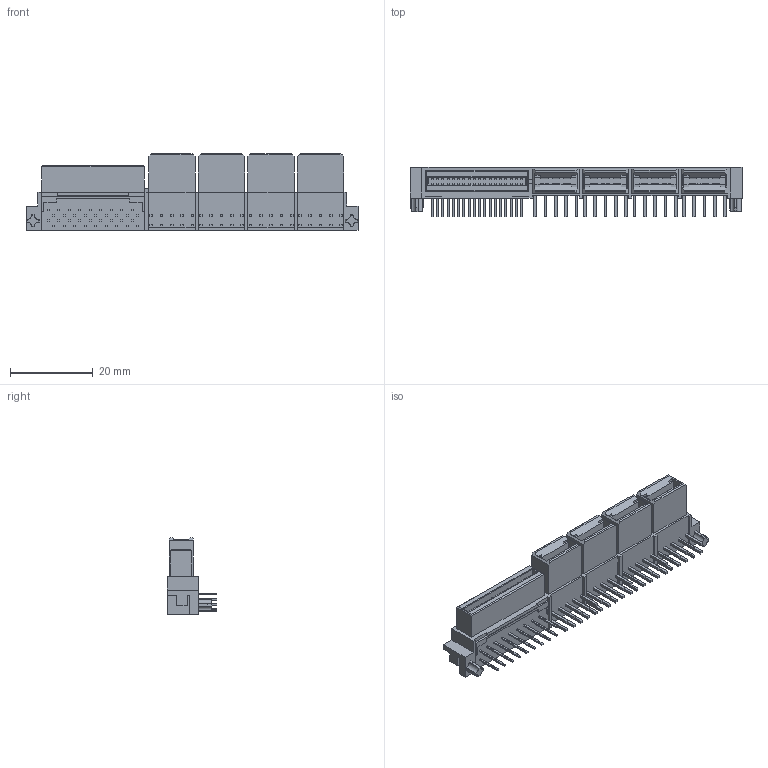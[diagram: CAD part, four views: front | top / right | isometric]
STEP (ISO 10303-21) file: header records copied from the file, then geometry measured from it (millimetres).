
FILE_DESCRIPTION((''),'2;1');
FILE_NAME('459848371','2016-12-15T',('ksrinivasara'),(''),'PRO/ENGINEER BY PARAMETRIC TECHNOLOGY CORPORATION, 2012310','PRO/ENGINEER BY PARAMETRIC TECHNOLOGY CORPORATION, 2012310','');
FILE_SCHEMA(('CONFIG_CONTROL_DESIGN'));
Length unit declared in the file: millimetre
Products named in the file (1): 459848371
Bounding box: 80.33 x 12 x 18.6 mm (x, y, z)
Volume: 5959 mm3; surface area: 7520.6 mm2
Topology: 1 solids, 1 shells, 1567 faces, 4619 edges, 3134 vertices
Faces by surface type: plane 1319, cylinder 248
Entity records: 51854 total; most frequent: CARTESIAN_POINT 9173, ORIENTED_EDGE 8910, DIRECTION 8399, EDGE_CURVE 4455, VECTOR 3943, LINE 3943, VERTEX_POINT 2962, AXIS2_PLACEMENT_3D 2228
